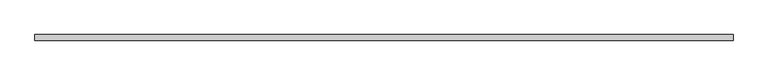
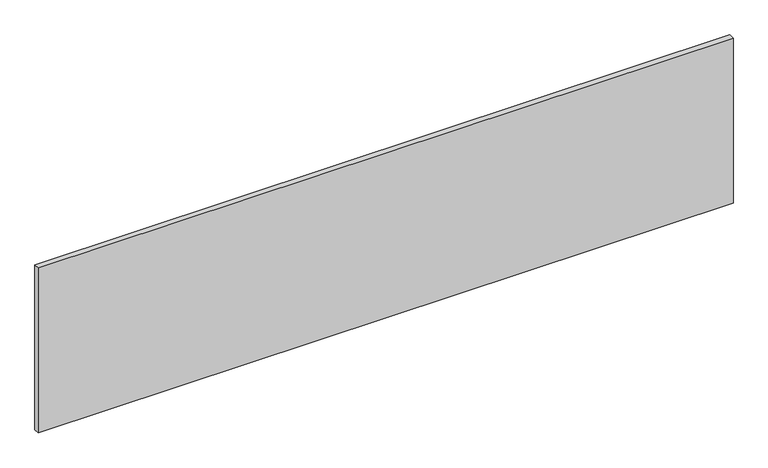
"""IFC4 building model written with IfcOpenShell, lengths in millimetres: proxy geometry, FOUNDATION^STANDARD CREDENZA_WEBSITE DETAIL-BOTTOM."""

from ifc_helpers import new_model, si_unit, frame, origin, place, context, project, spatial, polyline, outline, extrude, source, transform, mapped, element, save


def generic_models_50e18e38(model_context):
    return source(origin(), model_context, "Body", "SweptSolid", [
        extrude(outline(polyline([(2400.3, 38.1), (38.1, 38.1), (38.1, 57.15), (2400.3, 57.15), (2400.3, 38.1)])), frame((0.0, 0.0, 19.05), z_axis=(0.0, 0.0, 1.0), x_axis=(1.0, 0.0, 0.0)), (0.0, 0.0, 1.0), 593.725),
    ])


if __name__ == "__main__":
    model = new_model("IFC4")
    model_context = context("Model", 3, world=origin())
    ifc_project = project(units=[si_unit("LENGTHUNIT", "METRE", prefix="MILLI")], contexts=[model_context])
    site = spatial("IfcSite", under=ifc_project)
    building = spatial("IfcBuilding", under=site)
    placement = place(None, origin())
    generic_models_shape = generic_models_50e18e38(model_context)
    element("IfcBuildingElementProxy", 1, Name="FOUNDATION^STANDARD CREDENZA_WEBSITE DETAIL-BOTTOM", ObjectType="FOUNDATION^STANDARD CREDENZA_WEBSITE DETAIL-BOTTOM", at=placement, inside=building, context=model_context, shape_type="MappedRepresentation", body=[
        mapped(generic_models_shape, transform((0.0, 0.0, 0.0), x_axis=(1.0, 0.0, 0.0), y_axis=(0.0, 1.0, 0.0), z_axis=(0.0, 0.0, 1.0))),
    ])
    save(model, "model.ifc")
